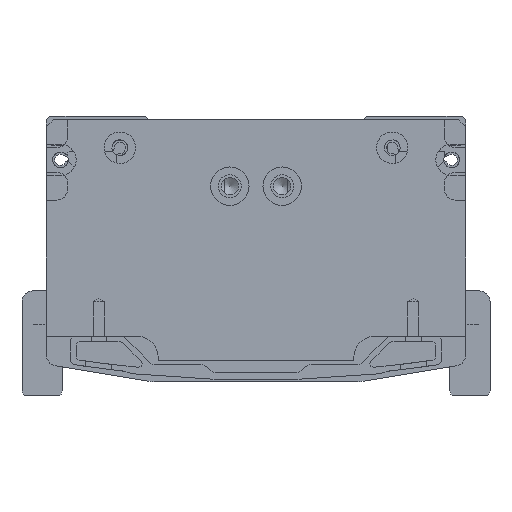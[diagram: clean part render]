
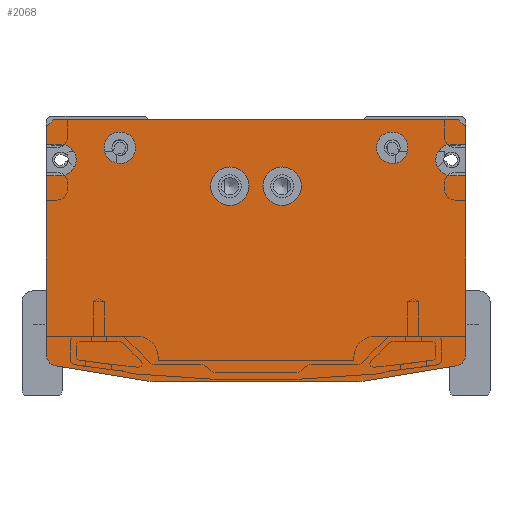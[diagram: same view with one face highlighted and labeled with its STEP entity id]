
A CAD part, front view. The second image highlights one B-rep face of the part: STEP entity #2068.
In plain terms, the highlighted planar face has unit normal (0, -1, 0).
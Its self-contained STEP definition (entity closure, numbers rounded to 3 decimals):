
#1076=FACE_BOUND('',#3991,.T.);
#1077=FACE_BOUND('',#3992,.T.);
#1078=FACE_BOUND('',#3993,.T.);
#1079=FACE_BOUND('',#3994,.T.);
#1080=FACE_BOUND('',#3995,.T.);
#2068=ADVANCED_FACE('',(#1076,#1077,#1078,#1079,#1080),#2734,.F.);
#2734=PLANE('',#16714);
#3991=EDGE_LOOP('',(#7850));
#3992=EDGE_LOOP('',(#7851));
#3993=EDGE_LOOP('',(#7852,#7853,#7854,#7855,#7856,#7857,#7858,#7859,#7860,
#7861,#7862,#7863,#7864,#7865,#7866,#7867,#7868,#7869,#7870,#7871));
#3994=EDGE_LOOP('',(#7872));
#3995=EDGE_LOOP('',(#7873));
#5171=CIRCLE('',#16615,5.5);
#5175=CIRCLE('',#16622,5.5);
#5178=CIRCLE('',#16628,4.5);
#5182=CIRCLE('',#16635,4.5);
#5189=CIRCLE('',#16653,4.5);
#5192=CIRCLE('',#16662,3.);
#5195=CIRCLE('',#16667,10.);
#5196=CIRCLE('',#16670,10.);
#5199=CIRCLE('',#16675,3.);
#5207=CIRCLE('',#16702,4.5);
#7850=ORIENTED_EDGE('',*,*,#12736,.T.);
#7851=ORIENTED_EDGE('',*,*,#12740,.T.);
#7852=ORIENTED_EDGE('',*,*,#12801,.T.);
#7853=ORIENTED_EDGE('',*,*,#12797,.F.);
#7854=ORIENTED_EDGE('',*,*,#12795,.F.);
#7855=ORIENTED_EDGE('',*,*,#12792,.F.);
#7856=ORIENTED_EDGE('',*,*,#12788,.T.);
#7857=ORIENTED_EDGE('',*,*,#12785,.T.);
#7858=ORIENTED_EDGE('',*,*,#12442,.F.);
#7859=ORIENTED_EDGE('',*,*,#12771,.T.);
#7860=ORIENTED_EDGE('',*,*,#12768,.T.);
#7861=ORIENTED_EDGE('',*,*,#12766,.F.);
#7862=ORIENTED_EDGE('',*,*,#12438,.F.);
#7863=ORIENTED_EDGE('',*,*,#12762,.T.);
#7864=ORIENTED_EDGE('',*,*,#12413,.F.);
#7865=ORIENTED_EDGE('',*,*,#12760,.T.);
#7866=ORIENTED_EDGE('',*,*,#12150,.F.);
#7867=ORIENTED_EDGE('',*,*,#12836,.T.);
#7868=ORIENTED_EDGE('',*,*,#12833,.T.);
#7869=ORIENTED_EDGE('',*,*,#12831,.F.);
#7870=ORIENTED_EDGE('',*,*,#12146,.F.);
#7871=ORIENTED_EDGE('',*,*,#12804,.T.);
#7872=ORIENTED_EDGE('',*,*,#12747,.F.);
#7873=ORIENTED_EDGE('',*,*,#12743,.F.);
#10468=VERTEX_POINT('',#24226);
#10469=VERTEX_POINT('',#24228);
#10472=VERTEX_POINT('',#24234);
#10473=VERTEX_POINT('',#24236);
#10604=VERTEX_POINT('',#25097);
#10605=VERTEX_POINT('',#25099);
#10620=VERTEX_POINT('',#25145);
#10621=VERTEX_POINT('',#25147);
#10624=VERTEX_POINT('',#25153);
#10625=VERTEX_POINT('',#25155);
#10824=VERTEX_POINT('',#26244);
#10828=VERTEX_POINT('',#26255);
#10831=VERTEX_POINT('',#26264);
#10834=VERTEX_POINT('',#26274);
#10842=VERTEX_POINT('',#26309);
#10844=VERTEX_POINT('',#26316);
#10855=VERTEX_POINT('',#26350);
#10857=VERTEX_POINT('',#26356);
#10860=VERTEX_POINT('',#26364);
#10862=VERTEX_POINT('',#26370);
#10863=VERTEX_POINT('',#26374);
#10866=VERTEX_POINT('',#26382);
#10878=VERTEX_POINT('',#26441);
#10880=VERTEX_POINT('',#26448);
#12146=EDGE_CURVE('',#10468,#10469,#13943,.T.);
#12150=EDGE_CURVE('',#10472,#10473,#13947,.T.);
#12413=EDGE_CURVE('',#10604,#10605,#14083,.T.);
#12438=EDGE_CURVE('',#10620,#10621,#14108,.T.);
#12442=EDGE_CURVE('',#10624,#10625,#14112,.T.);
#12736=EDGE_CURVE('',#10824,#10824,#5171,.T.);
#12740=EDGE_CURVE('',#10828,#10828,#5175,.T.);
#12743=EDGE_CURVE('',#10831,#10831,#5178,.T.);
#12747=EDGE_CURVE('',#10834,#10834,#5182,.T.);
#12760=EDGE_CURVE('',#10604,#10473,#14286,.T.);
#12762=EDGE_CURVE('',#10620,#10605,#14288,.T.);
#12766=EDGE_CURVE('',#10621,#10842,#14292,.T.);
#12768=EDGE_CURVE('',#10844,#10842,#5189,.T.);
#12771=EDGE_CURVE('',#10624,#10844,#14295,.T.);
#12785=EDGE_CURVE('',#10855,#10625,#5192,.T.);
#12788=EDGE_CURVE('',#10857,#10855,#14308,.T.);
#12792=EDGE_CURVE('',#10857,#10860,#5195,.T.);
#12795=EDGE_CURVE('',#10860,#10862,#14313,.T.);
#12797=EDGE_CURVE('',#10862,#10863,#5196,.T.);
#12801=EDGE_CURVE('',#10866,#10863,#14317,.T.);
#12804=EDGE_CURVE('',#10468,#10866,#5199,.T.);
#12831=EDGE_CURVE('',#10469,#10878,#14339,.T.);
#12833=EDGE_CURVE('',#10880,#10878,#5207,.T.);
#12836=EDGE_CURVE('',#10472,#10880,#14342,.T.);
#13943=LINE('',#24227,#15035);
#13947=LINE('',#24235,#15039);
#14083=LINE('',#25098,#15175);
#14108=LINE('',#25146,#15200);
#14112=LINE('',#25154,#15204);
#14286=LINE('',#26301,#15378);
#14288=LINE('',#26304,#15380);
#14292=LINE('',#26311,#15384);
#14295=LINE('',#26320,#15387);
#14308=LINE('',#26355,#15400);
#14313=LINE('',#26369,#15405);
#14317=LINE('',#26381,#15409);
#14339=LINE('',#26443,#15431);
#14342=LINE('',#26452,#15434);
#15035=VECTOR('',#18687,1.);
#15039=VECTOR('',#18691,1.);
#15175=VECTOR('',#19157,1.);
#15200=VECTOR('',#19196,1.);
#15204=VECTOR('',#19200,1.);
#15378=VECTOR('',#19960,1.);
#15380=VECTOR('',#19964,1.);
#15384=VECTOR('',#19970,1.);
#15387=VECTOR('',#19981,1.);
#15400=VECTOR('',#20014,1.);
#15405=VECTOR('',#20027,1.);
#15409=VECTOR('',#20039,1.);
#15431=VECTOR('',#20115,1.);
#15434=VECTOR('',#20126,1.);
#16615=AXIS2_PLACEMENT_3D('',#26243,#19885,#19886);
#16622=AXIS2_PLACEMENT_3D('',#26254,#19899,#19900);
#16628=AXIS2_PLACEMENT_3D('',#26263,#19911,#19912);
#16635=AXIS2_PLACEMENT_3D('',#26273,#19925,#19926);
#16653=AXIS2_PLACEMENT_3D('',#26315,#19975,#19976);
#16662=AXIS2_PLACEMENT_3D('',#26349,#20007,#20008);
#16667=AXIS2_PLACEMENT_3D('',#26363,#20021,#20022);
#16670=AXIS2_PLACEMENT_3D('',#26373,#20031,#20032);
#16675=AXIS2_PLACEMENT_3D('',#26386,#20045,#20046);
#16702=AXIS2_PLACEMENT_3D('',#26447,#20120,#20121);
#16714=AXIS2_PLACEMENT_3D('',#26469,#20151,#20152);
#18687=DIRECTION('',(0.,0.,1.));
#18691=DIRECTION('',(0.,0.,1.));
#19157=DIRECTION('',(1.,0.,0.));
#19196=DIRECTION('',(0.,0.,-1.));
#19200=DIRECTION('',(0.,0.,-1.));
#19885=DIRECTION('',(0.,1.,0.));
#19886=DIRECTION('',(1.,0.,0.));
#19899=DIRECTION('',(0.,1.,0.));
#19900=DIRECTION('',(1.,0.,0.));
#19911=DIRECTION('',(0.,-1.,0.));
#19912=DIRECTION('',(1.,0.,0.));
#19925=DIRECTION('',(0.,-1.,0.));
#19926=DIRECTION('',(1.,0.,0.));
#19960=DIRECTION('',(-0.707,0.,-0.707));
#19964=DIRECTION('',(-0.707,0.,0.707));
#19970=DIRECTION('',(-1.,0.,0.));
#19975=DIRECTION('',(0.,1.,0.));
#19976=DIRECTION('',(0.,0.,-1.));
#19981=DIRECTION('',(-1.,0.,0.));
#20007=DIRECTION('',(0.,-1.,0.));
#20008=DIRECTION('',(0.164,0.,-0.986));
#20014=DIRECTION('',(0.986,0.,0.164));
#20021=DIRECTION('',(0.,1.,0.));
#20022=DIRECTION('',(0.164,0.,-0.986));
#20027=DIRECTION('',(-1.,0.,0.));
#20031=DIRECTION('',(0.,1.,0.));
#20032=DIRECTION('',(0.,0.,-1.));
#20039=DIRECTION('',(0.986,0.,-0.164));
#20045=DIRECTION('',(0.,-1.,0.));
#20046=DIRECTION('',(-1.,0.,0.));
#20115=DIRECTION('',(1.,0.,0.));
#20120=DIRECTION('',(0.,1.,0.));
#20121=DIRECTION('',(0.,0.,1.));
#20126=DIRECTION('',(1.,0.,0.));
#20151=DIRECTION('',(0.,1.,0.));
#20152=DIRECTION('',(-1.,0.,0.));
#24226=CARTESIAN_POINT('',(-60.,-1612.,-69.459));
#24227=CARTESIAN_POINT('',(-60.,-1612.,-69.459));
#24228=CARTESIAN_POINT('',(-60.,-1612.,-18.));
#24234=CARTESIAN_POINT('',(-60.,-1612.,-9.));
#24235=CARTESIAN_POINT('',(-60.,-1612.,-9.));
#24236=CARTESIAN_POINT('',(-60.,-1612.,-4.));
#25097=CARTESIAN_POINT('',(-58.,-1612.,-2.));
#25098=CARTESIAN_POINT('',(-58.,-1612.,-2.));
#25099=CARTESIAN_POINT('',(58.,-1612.,-2.));
#25145=CARTESIAN_POINT('',(60.,-1612.,-4.));
#25146=CARTESIAN_POINT('',(60.,-1612.,-4.));
#25147=CARTESIAN_POINT('',(60.,-1612.,-9.));
#25153=CARTESIAN_POINT('',(60.,-1612.,-18.));
#25154=CARTESIAN_POINT('',(60.,-1612.,-18.));
#25155=CARTESIAN_POINT('',(60.,-1612.,-69.459));
#26243=CARTESIAN_POINT('',(7.5,-1612.,-21.));
#26244=CARTESIAN_POINT('',(13.,-1612.,-21.));
#26254=CARTESIAN_POINT('',(-7.5,-1612.,-21.));
#26255=CARTESIAN_POINT('',(-2.,-1612.,-21.));
#26263=CARTESIAN_POINT('',(-39.,-1612.,-10.));
#26264=CARTESIAN_POINT('',(-34.5,-1612.,-10.));
#26273=CARTESIAN_POINT('',(39.,-1612.,-10.));
#26274=CARTESIAN_POINT('',(43.5,-1612.,-10.));
#26301=CARTESIAN_POINT('',(-58.,-1612.,-2.));
#26304=CARTESIAN_POINT('',(60.,-1612.,-4.));
#26309=CARTESIAN_POINT('',(56.,-1612.,-9.));
#26311=CARTESIAN_POINT('',(60.,-1612.,-9.));
#26315=CARTESIAN_POINT('',(56.,-1612.,-13.5));
#26316=CARTESIAN_POINT('',(56.,-1612.,-18.));
#26320=CARTESIAN_POINT('',(60.,-1612.,-18.));
#26349=CARTESIAN_POINT('',(57.,-1612.,-69.459));
#26350=CARTESIAN_POINT('',(57.493,-1612.,-72.418));
#26355=CARTESIAN_POINT('',(30.816,-1612.,-76.864));
#26356=CARTESIAN_POINT('',(30.816,-1612.,-76.864));
#26363=CARTESIAN_POINT('',(29.172,-1612.,-67.));
#26364=CARTESIAN_POINT('',(29.172,-1612.,-77.));
#26369=CARTESIAN_POINT('',(29.172,-1612.,-77.));
#26370=CARTESIAN_POINT('',(-29.172,-1612.,-77.));
#26373=CARTESIAN_POINT('',(-29.172,-1612.,-67.));
#26374=CARTESIAN_POINT('',(-30.816,-1612.,-76.864));
#26381=CARTESIAN_POINT('',(-57.493,-1612.,-72.418));
#26382=CARTESIAN_POINT('',(-57.493,-1612.,-72.418));
#26386=CARTESIAN_POINT('',(-57.,-1612.,-69.459));
#26441=CARTESIAN_POINT('',(-56.,-1612.,-18.));
#26443=CARTESIAN_POINT('',(-60.,-1612.,-18.));
#26447=CARTESIAN_POINT('',(-56.,-1612.,-13.5));
#26448=CARTESIAN_POINT('',(-56.,-1612.,-9.));
#26452=CARTESIAN_POINT('',(-60.,-1612.,-9.));
#26469=CARTESIAN_POINT('',(0.,-1612.,-2.));
